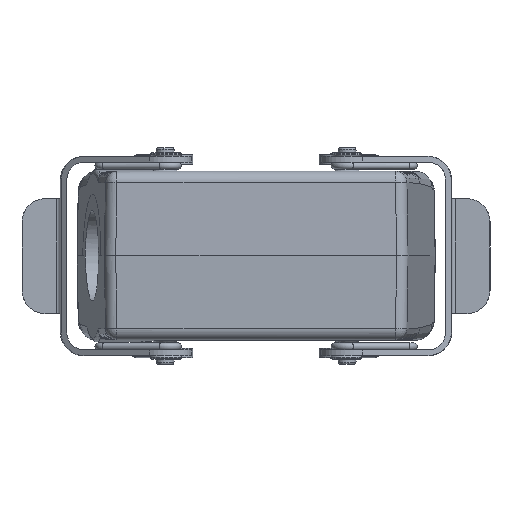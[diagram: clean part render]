
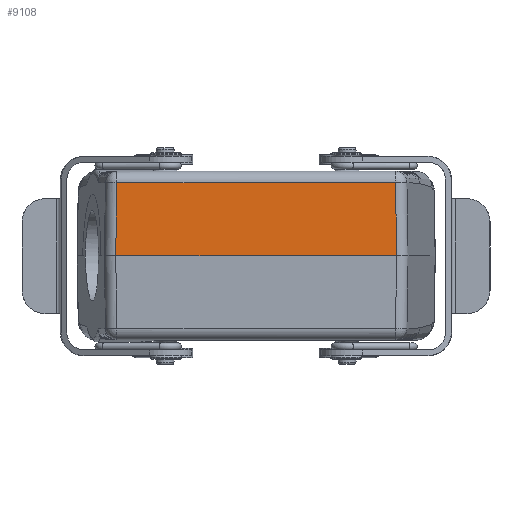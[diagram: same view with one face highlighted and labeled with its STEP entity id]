
A CAD part, top view. The second image highlights one B-rep face of the part: STEP entity #9108.
In plain terms, the highlighted planar face has unit normal (0, 0.018, 1).
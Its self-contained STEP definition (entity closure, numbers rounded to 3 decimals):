
#725 = ORIENTED_EDGE ( 'NONE', *, *, #17613, .T. ) ;
#1046 = LINE ( 'NONE', #34474, #13867 ) ;
#1254 = CARTESIAN_POINT ( 'NONE',  ( 102.716, 22.111, -10. ) ) ;
#1578 = CARTESIAN_POINT ( 'NONE',  ( 29.397, 22.111, -10. ) ) ;
#4411 = EDGE_CURVE ( 'NONE', #29486, #12542, #26461, .T. ) ;
#4636 = CARTESIAN_POINT ( 'NONE',  ( 102.429, 41.164, -10.333 ) ) ;
#4897 = FACE_OUTER_BOUND ( 'NONE', #12923, .T. ) ;
#6745 = CARTESIAN_POINT ( 'NONE',  ( 29.493, 28.462, -10.111 ) ) ;
#7330 = CARTESIAN_POINT ( 'NONE',  ( 102.716, 22.111, -10. ) ) ;
#7461 = DIRECTION ( 'NONE',  ( -1., 0., 0. ) ) ;
#8691 = EDGE_CURVE ( 'NONE', #23163, #12542, #33831, .T. ) ;
#9108 = ADVANCED_FACE ( 'NONE', ( #4897 ), #26503, .T. ) ;
#9266 = CARTESIAN_POINT ( 'NONE',  ( 27.931, 21.73, -9.993 ) ) ;
#10138 = EDGE_CURVE ( 'NONE', #23163, #24504, #19546, .T. ) ;
#11154 = ORIENTED_EDGE ( 'NONE', *, *, #8691, .T. ) ;
#12236 = DIRECTION ( 'NONE',  ( 1., 0., 0. ) ) ;
#12439 = CARTESIAN_POINT ( 'NONE',  ( 29.589, 34.813, -10.222 ) ) ;
#12502 = DIRECTION ( 'NONE',  ( 0., 1., -0.017 ) ) ;
#12542 = VERTEX_POINT ( 'NONE', #12816 ) ;
#12816 = CARTESIAN_POINT ( 'NONE',  ( 29.684, 41.164, -10.333 ) ) ;
#12923 = EDGE_LOOP ( 'NONE', ( #725, #34812, #11154, #21720 ) ) ;
#13867 = VECTOR ( 'NONE', #12236, 1000. ) ;
#14475 = VECTOR ( 'NONE', #7461, 1000. ) ;
#16050 = AXIS2_PLACEMENT_3D ( 'NONE', #9266, #28967, #12502 ) ;
#16849 = CARTESIAN_POINT ( 'NONE',  ( 102.62, 28.462, -10.111 ) ) ;
#17613 = EDGE_CURVE ( 'NONE', #29486, #24504, #1046, .T. ) ;
#19546 = B_SPLINE_CURVE_WITH_KNOTS ( 'NONE', 3,
 ( #36348, #19575, #16849, #7330 ),
 .UNSPECIFIED., .F., .F.,
 ( 4, 4 ),
 ( 0., 1. ),
 .UNSPECIFIED. ) ;
#19575 = CARTESIAN_POINT ( 'NONE',  ( 102.524, 34.813, -10.222 ) ) ;
#21720 = ORIENTED_EDGE ( 'NONE', *, *, #4411, .F. ) ;
#23163 = VERTEX_POINT ( 'NONE', #30078 ) ;
#24504 = VERTEX_POINT ( 'NONE', #1254 ) ;
#26461 = B_SPLINE_CURVE_WITH_KNOTS ( 'NONE', 3,
 ( #35033, #6745, #12439, #32090 ),
 .UNSPECIFIED., .F., .F.,
 ( 4, 4 ),
 ( 0., 1. ),
 .UNSPECIFIED. ) ;
#26503 = PLANE ( 'NONE',  #16050 ) ;
#28967 = DIRECTION ( 'NONE',  ( 0., 0.017, 1. ) ) ;
#29486 = VERTEX_POINT ( 'NONE', #1578 ) ;
#30078 = CARTESIAN_POINT ( 'NONE',  ( 102.429, 41.164, -10.333 ) ) ;
#32090 = CARTESIAN_POINT ( 'NONE',  ( 29.684, 41.164, -10.333 ) ) ;
#33831 = LINE ( 'NONE', #4636, #14475 ) ;
#34474 = CARTESIAN_POINT ( 'NONE',  ( 27.931, 22.111, -10. ) ) ;
#34812 = ORIENTED_EDGE ( 'NONE', *, *, #10138, .F. ) ;
#35033 = CARTESIAN_POINT ( 'NONE',  ( 29.397, 22.111, -10. ) ) ;
#36348 = CARTESIAN_POINT ( 'NONE',  ( 102.429, 41.164, -10.333 ) ) ;
